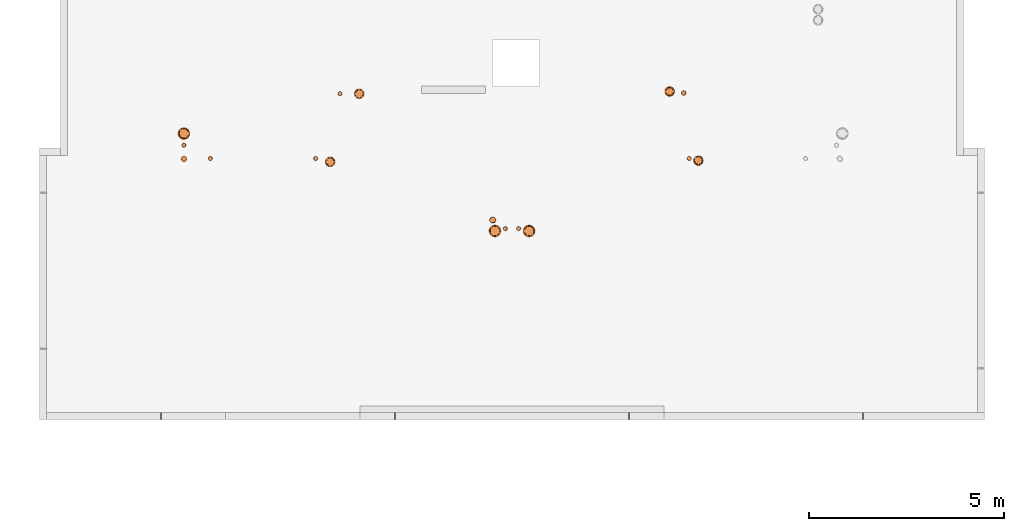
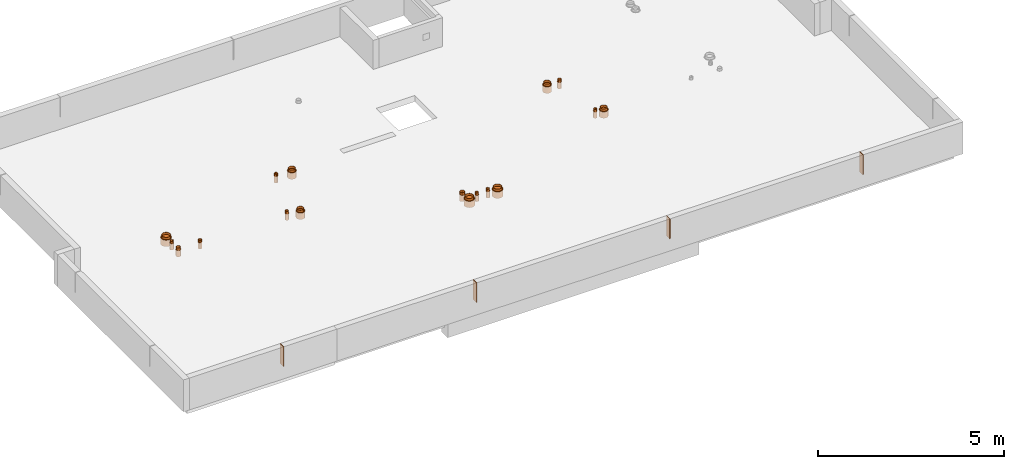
# One storey, part 7 of 12: 21 proxies.
"""IFC2X3 building model written with IfcOpenShell, lengths in centimetres."""

from ifc_helpers import new_model, entity, si_unit, converted_unit, derived_unit, direction, frame, frame_2d, origin, place, context, subcontext, project, spatial, rectangle, circle, hollow_circle, extrude, source, transform, mapped, material, type_object, type_shapes, element, save


model = new_model("IFC2X3")

# Units and contexts
model_context = context("Model", 3, precision=0.001, world=origin(), true_north=direction((6.12303176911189e-17, 1.0)))
body_context = subcontext(model_context, "Body", "Model", "MODEL_VIEW")
ifc_project = project(units=[si_unit("LENGTHUNIT", "METRE", prefix="CENTI"), si_unit("AREAUNIT", "SQUARE_METRE"), si_unit("VOLUMEUNIT", "CUBIC_METRE"), converted_unit("PLANEANGLEUNIT", "DEGREE", entity("IfcRatioMeasure", 0.0174532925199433), si_unit("PLANEANGLEUNIT", "RADIAN"), dimensions=[0, 0, 0, 0, 0, 0, 0]), si_unit("MASSUNIT", "GRAM", prefix="KILO"), derived_unit("MASSDENSITYUNIT", [(si_unit("MASSUNIT", "GRAM", prefix="KILO"), 1), (si_unit("LENGTHUNIT", "METRE"), -3)]), si_unit("TIMEUNIT", "SECOND"), si_unit("FREQUENCYUNIT", "HERTZ"), si_unit("THERMODYNAMICTEMPERATUREUNIT", "DEGREE_CELSIUS"), derived_unit("THERMALTRANSMITTANCEUNIT", [(si_unit("MASSUNIT", "GRAM", prefix="KILO"), 1), (si_unit("THERMODYNAMICTEMPERATUREUNIT", "KELVIN"), -1), (si_unit("TIMEUNIT", "SECOND"), -3)]), derived_unit("VOLUMETRICFLOWRATEUNIT", [(si_unit("LENGTHUNIT", "METRE"), 3), (si_unit("TIMEUNIT", "SECOND"), -1)]), si_unit("ELECTRICCURRENTUNIT", "AMPERE"), si_unit("ELECTRICVOLTAGEUNIT", "VOLT"), si_unit("POWERUNIT", "WATT"), si_unit("FORCEUNIT", "NEWTON"), si_unit("ILLUMINANCEUNIT", "LUX"), si_unit("LUMINOUSFLUXUNIT", "LUMEN"), si_unit("LUMINOUSINTENSITYUNIT", "CANDELA"), derived_unit("USERDEFINED", [(si_unit("MASSUNIT", "GRAM", prefix="KILO"), -1), (si_unit("LENGTHUNIT", "METRE"), -2), (si_unit("TIMEUNIT", "SECOND"), 3), (si_unit("LUMINOUSFLUXUNIT", "LUMEN"), 1)]), derived_unit("LINEARVELOCITYUNIT", [(si_unit("LENGTHUNIT", "METRE"), 1), (si_unit("TIMEUNIT", "SECOND"), -1)]), si_unit("PRESSUREUNIT", "PASCAL"), derived_unit("USERDEFINED", [(si_unit("LENGTHUNIT", "METRE"), -2), (si_unit("MASSUNIT", "GRAM", prefix="KILO"), 1), (si_unit("TIMEUNIT", "SECOND"), -2)])], contexts=[model_context])

# Site, building, storey
site_placement = place(None, origin())
site = spatial("IfcSite", under=ifc_project, at=site_placement, Name="Default", CompositionType="ELEMENT")
building_placement = place(site_placement, origin())
building = spatial("IfcBuilding", under=site, at=building_placement, Name="CAGE 03", CompositionType="ELEMENT")
storey_placement = place(building_placement, frame((0.0, 0.0, 1690.0)))
storey = spatial("IfcBuildingStorey", under=building, at=storey_placement, Name="R+6", CompositionType="ELEMENT", Elevation=1690.0)

# Proxies
ifc_material_1 = material(Name="BBGO_Résa")
building_element_proxy_type_1 = type_object("IfcBuildingElementProxyType", Name="J.F.", PredefinedType="NOTDEFINED", material=ifc_material_1)
shared_shape_1 = source(origin(), body_context, "Body", "SweptSolid", [
    extrude(rectangle(XDim=18.0000000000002, YDim=1.99999999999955, at=frame_2d((-2.16715534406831e-13, 0.0), x_axis=(1.0, 0.0))), frame((7981.36582014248, 3805.6606660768, 1730.0), z_axis=(0.0, 0.0, 1.0), x_axis=(0.0, 1.0, 0.0)), (0.0, 0.0, 1.0), 64.9999999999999),
])
type_shapes(building_element_proxy_type_1, [shared_shape_1])
proxy_1_placement = place(storey_placement, frame((0.0, 0.0, -1690.0)))
element("IfcBuildingElementProxy", 1, at=proxy_1_placement, inside=storey, type_object=building_element_proxy_type_1, material=ifc_material_1, Name="BBGO-Résa rect et circ:J.F.", ObjectType="J.F.", context=body_context, shape_type="MappedRepresentation", body=[
    mapped(shared_shape_1, transform((0.0, 0.0, 0.0), scale=1.0)),
])
building_element_proxy_type_2 = type_object("IfcBuildingElementProxyType", Name="J.F.", PredefinedType="NOTDEFINED", material=ifc_material_1)
shared_shape_2 = source(origin(), body_context, "Body", "SweptSolid", [
    extrude(rectangle(XDim=18.0000000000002, YDim=2.00000000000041, at=frame_2d((-2.16715534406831e-13, -4.33209024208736e-13), x_axis=(1.0, 0.0))), frame((7381.36582014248, 3805.6606660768, 1730.0), z_axis=(0.0, 0.0, 1.0), x_axis=(0.0, 1.0, 0.0)), (0.0, 0.0, 1.0), 64.9999999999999),
])
type_shapes(building_element_proxy_type_2, [shared_shape_2])
proxy_2_placement = place(storey_placement, frame((0.0, 0.0, -1690.0)))
element("IfcBuildingElementProxy", 2, at=proxy_2_placement, inside=storey, type_object=building_element_proxy_type_2, material=ifc_material_1, Name="BBGO-Résa rect et circ:J.F.", ObjectType="J.F.", context=body_context, shape_type="MappedRepresentation", body=[
    mapped(shared_shape_2, transform((0.0, 0.0, 0.0), scale=1.0)),
])
building_element_proxy_type_3 = type_object("IfcBuildingElementProxyType", Name="J.F.", PredefinedType="NOTDEFINED", material=ifc_material_1)
shared_shape_3 = source(origin(), body_context, "Body", "SweptSolid", [
    extrude(rectangle(XDim=18.0000000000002, YDim=2.00000000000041, at=frame_2d((-2.16715534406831e-13, 4.33209024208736e-13), x_axis=(1.0, 0.0))), frame((6781.36582014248, 3805.6606660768, 1730.0), z_axis=(0.0, 0.0, 1.0), x_axis=(0.0, 1.0, 0.0)), (0.0, 0.0, 1.0), 64.9999999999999),
])
type_shapes(building_element_proxy_type_3, [shared_shape_3])
proxy_3_placement = place(storey_placement, frame((0.0, 0.0, -1690.0)))
element("IfcBuildingElementProxy", 3, at=proxy_3_placement, inside=storey, type_object=building_element_proxy_type_3, material=ifc_material_1, Name="BBGO-Résa rect et circ:J.F.", ObjectType="J.F.", context=body_context, shape_type="MappedRepresentation", body=[
    mapped(shared_shape_3, transform((0.0, 0.0, 0.0), scale=1.0)),
])
building_element_proxy_type_4 = type_object("IfcBuildingElementProxyType", Name="J.F.", PredefinedType="NOTDEFINED", material=ifc_material_1)
shared_shape_4 = source(origin(), body_context, "Body", "SweptSolid", [
    extrude(rectangle(XDim=18.0000000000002, YDim=2.00000000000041, at=frame_2d((-2.16715534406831e-13, -4.33209024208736e-13), x_axis=(1.0, 0.0))), frame((6181.36582014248, 3805.6606660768, 1730.0), z_axis=(0.0, 0.0, 1.0), x_axis=(0.0, 1.0, 0.0)), (0.0, 0.0, 1.0), 64.9999999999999),
])
type_shapes(building_element_proxy_type_4, [shared_shape_4])
proxy_4_placement = place(storey_placement, frame((0.0, 0.0, -1690.0)))
element("IfcBuildingElementProxy", 4, at=proxy_4_placement, inside=storey, type_object=building_element_proxy_type_4, material=ifc_material_1, Name="BBGO-Résa rect et circ:J.F.", ObjectType="J.F.", context=body_context, shape_type="MappedRepresentation", body=[
    mapped(shared_shape_4, transform((0.0, 0.0, 0.0), scale=1.0)),
])
ifc_material_2 = material(Name="Conduit EP")
building_element_proxy_type_5 = type_object("IfcBuildingElementProxyType", Name="CFO160 P150", PredefinedType="NOTDEFINED", material=ifc_material_2)
shared_shape_5 = source(origin(), body_context, "Body", "SweptSolid", [
    extrude(circle(Radius=8.0, at=frame_2d((0.0, -1.29243565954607e-14), x_axis=(1.0, 0.0))), frame((0.0, 0.0, -21.0)), (0.0, 0.0, 1.0), 21.0),
    extrude(hollow_circle(Radius=7.0, WallThickness=0.25, at=frame_2d((0.0, -1.13088120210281e-14), x_axis=(1.0, 0.0))), frame((0.0, 0.0, -21.0)), (0.0, 0.0, 1.0), 28.5),
])
type_shapes(building_element_proxy_type_5, [shared_shape_5])
proxy_5_placement = place(storey_placement, frame((7031.90297713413, 4308.4720260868, 0.0)))
element("IfcBuildingElementProxy", 5, at=proxy_5_placement, inside=storey, type_object=building_element_proxy_type_5, material=ifc_material_2, Name="Galette - Résa - PVC5:CFO160 P150", ObjectType="CFO160 P150", context=body_context, shape_type="MappedRepresentation", body=[
    mapped(shared_shape_5, transform((0.0, 0.0, 0.0), scale=1.0)),
])
ifc_material_3 = material(Name="Conduit EU")
building_element_proxy_type_6 = type_object("IfcBuildingElementProxyType", Name="CFO125 P110", PredefinedType="NOTDEFINED", material=ifc_material_3)
shared_shape_6 = source(origin(), body_context, "Body", "SweptSolid", [
    extrude(circle(Radius=5.5, at=frame_2d((0.0, -8.88549515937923e-15), x_axis=(1.0, 0.0))), frame((0.0, 0.0, -21.0)), (0.0, 0.0, 1.0), 21.0),
    extrude(hollow_circle(Radius=5.0, WallThickness=0.25, at=frame_2d((0.0, -8.07772287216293e-15), x_axis=(1.0, 0.0))), frame((0.0, 0.0, -21.0)), (0.0, 0.0, 1.0), 28.5),
])
type_shapes(building_element_proxy_type_6, [shared_shape_6])
for number, where, name in (
    (6, (7535.77855002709, 4466.36505499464, 0.0), "Galette - Résa - PVC5:CFO125 P110"),
    (7, (7098.50805140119, 4286.58036411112, 0.0), "Galette - Résa - PVC5:CFO125 P110"),
    (8, (7064.37018928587, 4286.58443855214, 0.0), "Galette - Résa - PVC5:CFO125 P110"),
    (9, (6308.05703024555, 4466.34830105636, 0.0), "Galette - Résa - PVC5:CFO125 P110"),
    (10, (6578.06629120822, 4466.41087994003, 0.0), "Galette - Résa - PVC5:CFO125 P110"),
    (11, (6240.09571149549, 4500.35421277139, 0.0), "Galette - Résa - PVC5:CFO125 P110"),
    (12, (6640.35702886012, 4632.82800462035, 0.0), "Galette - Résa - PVC5:CFO125 P110"),
):
    element("IfcBuildingElementProxy", number, at=place(storey_placement, frame(where)), inside=storey, type_object=building_element_proxy_type_6, material=ifc_material_3, Name=name, ObjectType="CFO125 P110", context=body_context, shape_type="MappedRepresentation", body=[
        mapped(shared_shape_6, transform((0.0, 0.0, 0.0), scale=1.0)),
    ])
ifc_material_4 = material(Name="Conduit VMC")
building_element_proxy_type_7 = type_object("IfcBuildingElementProxyType", Name="CFO235 P210", PredefinedType="NOTDEFINED", material=ifc_material_4)
shared_shape_7 = source(origin(), body_context, "Body", "SweptSolid", [
    extrude(circle(Radius=12.5, at=frame_2d((0.0, -2.01943071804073e-14), x_axis=(1.0, 0.0))), frame((0.0, 0.0, -21.0)), (0.0, 0.0, 1.0), 21.0),
    extrude(hollow_circle(Radius=10.0, WallThickness=0.5, at=frame_2d((0.0, -1.61554457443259e-14), x_axis=(1.0, 0.0))), frame((0.0, 0.0, -21.0)), (0.0, 0.0, 1.0), 28.5),
])
type_shapes(building_element_proxy_type_7, [shared_shape_7])
for number, where, name in (
    (13, (7559.2488384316, 4460.96671430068, 0.0), "Galette - Résa - PVC5:CFO235 P210"),
    (14, (6615.21171708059, 4457.86905232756, 0.0), "Galette - Résa - PVC5:CFO235 P210"),
    (15, (6689.61170908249, 4632.46760794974, 0.0), "Galette - Résa - PVC5:CFO235 P210"),
):
    element("IfcBuildingElementProxy", number, at=place(storey_placement, frame(where)), inside=storey, type_object=building_element_proxy_type_7, material=ifc_material_4, Name=name, ObjectType="CFO235 P210", context=body_context, shape_type="MappedRepresentation", body=[
        mapped(shared_shape_7, transform((0.0, 0.0, 0.0), scale=1.0)),
    ])
building_element_proxy_type_8 = type_object("IfcBuildingElementProxyType", Name="CFO285 P260", PredefinedType="NOTDEFINED", material=ifc_material_4)
shared_shape_8 = source(origin(), body_context, "Body", "SweptSolid", [
    extrude(circle(Radius=15.0, at=frame_2d((0.0, -2.42331686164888e-14), x_axis=(1.0, 0.0))), frame((0.0, 0.0, -21.0)), (0.0, 0.0, 1.0), 21.0),
    extrude(hollow_circle(Radius=12.5, WallThickness=0.499999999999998, at=frame_2d((0.0, -2.01943071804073e-14), x_axis=(1.0, 0.0))), frame((0.0, 0.0, -21.0)), (0.0, 0.0, 1.0), 28.5),
])
type_shapes(building_element_proxy_type_8, [shared_shape_8])
for number, where, name in (
    (16, (7037.61602078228, 4280.58090900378, 0.0), "Galette - Résa - PVC5:CFO285 P260"),
    (17, (7125.26139128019, 4280.58090900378, 0.0), "Galette - Résa - PVC5:CFO285 P260"),
    (18, (6240.09571149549, 4530.34782251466, 0.0), "Galette - Résa - PVC5:CFO285 P260"),
):
    element("IfcBuildingElementProxy", number, at=place(storey_placement, frame(where)), inside=storey, type_object=building_element_proxy_type_8, material=ifc_material_4, Name=name, ObjectType="CFO285 P260", context=body_context, shape_type="MappedRepresentation", body=[
        mapped(shared_shape_8, transform((0.0, 0.0, 0.0), scale=1.0)),
    ])
building_element_proxy_type_9 = type_object("IfcBuildingElementProxyType", Name="EU 110", PredefinedType="NOTDEFINED", material=ifc_material_3)
shared_shape_9 = source(origin(), body_context, "Body", "SweptSolid", [
    extrude(circle(Radius=6.25, at=frame_2d((0.0, -1.00971535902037e-14), x_axis=(1.0, 0.0))), frame((0.0, 0.0, -21.0)), (0.0, 0.0, 1.0), 21.0),
    extrude(hollow_circle(Radius=5.5, WallThickness=0.250000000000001, at=frame_2d((0.0, -8.88549515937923e-15), x_axis=(1.0, 0.0))), frame((0.0, 0.0, -21.0)), (0.0, 0.0, 1.0), 28.5),
])
type_shapes(building_element_proxy_type_9, [shared_shape_9])
proxy_6_placement = place(storey_placement, frame((7521.63327767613, 4634.34777944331, 0.0)))
element("IfcBuildingElementProxy", 19, at=proxy_6_placement, inside=storey, type_object=building_element_proxy_type_9, material=ifc_material_3, Name="Galette - Résa - PVC5:EU 110", ObjectType="EU 110", context=body_context, shape_type="MappedRepresentation", body=[
    mapped(shared_shape_9, transform((0.0, 0.0, 0.0), scale=1.0)),
])
building_element_proxy_type_10 = type_object("IfcBuildingElementProxyType", Name="VMC 200", PredefinedType="NOTDEFINED", material=ifc_material_4)
shared_shape_10 = source(origin(), body_context, "Body", "SweptSolid", [
    extrude(circle(Radius=12.5, at=frame_2d((0.0, -2.01943071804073e-14), x_axis=(1.0, 0.0))), frame((0.0, 0.0, -21.0)), (0.0, 0.0, 1.0), 21.0),
    extrude(hollow_circle(Radius=10.0, WallThickness=0.5, at=frame_2d((0.0, -1.61554457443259e-14), x_axis=(1.0, 0.0))), frame((0.0, 0.0, -21.0)), (0.0, 0.0, 1.0), 28.5),
])
type_shapes(building_element_proxy_type_10, [shared_shape_10])
proxy_7_placement = place(storey_placement, frame((7485.62782424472, 4638.16752120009, 0.0)))
element("IfcBuildingElementProxy", 20, at=proxy_7_placement, inside=storey, type_object=building_element_proxy_type_10, material=ifc_material_4, Name="Galette - Résa - PVC5:VMC 200", ObjectType="VMC 200", context=body_context, shape_type="MappedRepresentation", body=[
    mapped(shared_shape_10, transform((0.0, 0.0, 0.0), scale=1.0)),
])
building_element_proxy_type_11 = type_object("IfcBuildingElementProxyType", Name="CFO140 P135", PredefinedType="NOTDEFINED", material=ifc_material_4)
shared_shape_11 = source(origin(), body_context, "Body", "SweptSolid", [
    extrude(circle(Radius=7.0, at=frame_2d((0.0, -1.13088120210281e-14), x_axis=(1.0, 0.0))), frame((0.0, 0.0, -21.0)), (0.0, 0.0, 1.0), 21.0),
    extrude(hollow_circle(Radius=6.25, WallThickness=0.25, at=frame_2d((0.0, -1.00971535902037e-14), x_axis=(1.0, 0.0))), frame((0.0, 0.0, -21.0)), (0.0, 0.0, 1.0), 28.5),
])
type_shapes(building_element_proxy_type_11, [shared_shape_11])
proxy_8_placement = place(storey_placement, frame((6240.30982300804, 4465.36426071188, 0.0)))
element("IfcBuildingElementProxy", 21, at=proxy_8_placement, inside=storey, type_object=building_element_proxy_type_11, material=ifc_material_4, Name="Galette - Résa - PVC5:CFO140 P135", ObjectType="CFO140 P135", context=body_context, shape_type="MappedRepresentation", body=[
    mapped(shared_shape_11, transform((0.0, 0.0, 0.0), scale=1.0)),
])

save(model, "model.ifc")
